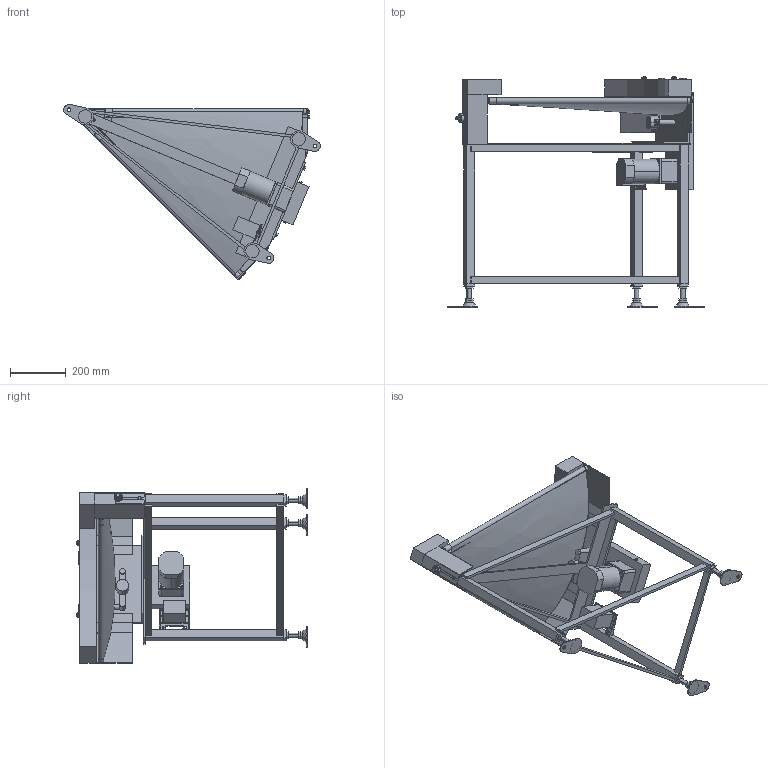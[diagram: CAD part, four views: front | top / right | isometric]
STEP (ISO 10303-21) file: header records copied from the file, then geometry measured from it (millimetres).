
FILE_DESCRIPTION( (''), '2;1');
FILE_NAME ('MMBC3-UD-309-600-45°-R-K-120.stp','2025-02-17T13:54:56',(''),(''),'spGate 20.6.2 (****-****-****-****)','','');
FILE_SCHEMA (('AUTOMOTIVE_DESIGN'));
Length unit declared in the file: millimetre
Products named in the file (39): NewModel; TEMP_X_T-prt0; TEMP_X_T-prt1; TEMP_X_T-prt2; TEMP_X_T-prt3; TEMP_X_T-prt4; TEMP_X_T-prt5; TEMP_X_T-prt6; TEMP_X_T-prt7; TEMP_X_T-prt8; TEMP_X_T-prt9; TEMP_X_T-prt10; TEMP_X_T-prt11; TEMP_X_T-prt12; TEMP_X_T-prt13; TEMP_X_T-prt14; TEMP_X_T-prt15; TEMP_X_T-prt16; TEMP_X_T-prt17; TEMP_X_T-prt18; TEMP_X_T-prt19; TEMP_X_T-prt20; TEMP_X_T-prt21; TEMP_X_T-prt22; TEMP_X_T-prt23; TEMP_X_T-prt24; TEMP_X_T-prt25; TEMP_X_T-prt26; TEMP_X_T-prt27; TEMP_X_T-prt28; TEMP_X_T-prt29; TEMP_X_T-prt30; TEMP_X_T-prt31; TEMP_X_T-prt32; TEMP_X_T-prt33; TEMP_X_T-prt34; TEMP_X_T-prt35; TEMP_X_T-prt36; TEMP_X_T-prt37
Assembly tree (38 placements, depth 2):
  NewModel
    TEMP_X_T-prt0
    TEMP_X_T-prt1
    TEMP_X_T-prt2
    TEMP_X_T-prt3
    TEMP_X_T-prt4
    TEMP_X_T-prt5
    TEMP_X_T-prt6
    TEMP_X_T-prt7
    TEMP_X_T-prt8
    TEMP_X_T-prt9
    TEMP_X_T-prt10
    TEMP_X_T-prt11
    TEMP_X_T-prt12
    TEMP_X_T-prt13
    TEMP_X_T-prt14
    TEMP_X_T-prt15
    TEMP_X_T-prt16
    TEMP_X_T-prt17
    TEMP_X_T-prt18
    TEMP_X_T-prt19
    TEMP_X_T-prt20
    TEMP_X_T-prt21
    TEMP_X_T-prt22
    TEMP_X_T-prt23
    TEMP_X_T-prt24
    TEMP_X_T-prt25
    TEMP_X_T-prt26
    TEMP_X_T-prt27
    TEMP_X_T-prt28
    TEMP_X_T-prt29
    TEMP_X_T-prt30
    TEMP_X_T-prt31
    TEMP_X_T-prt32
    TEMP_X_T-prt33
    TEMP_X_T-prt34
    TEMP_X_T-prt35
    TEMP_X_T-prt36
    TEMP_X_T-prt37
Bounding box: 921.74 x 827.52 x 629.18 mm (x, y, z)
Volume: 13405718.2 mm3; surface area: 3262340 mm2
Topology: 38 solids, 38 shells, 1073 faces, 2554 edges, 1650 vertices
Faces by surface type: plane 726, cylinder 267, bspline 76, sphere 4
Entity records: 56663 total; most frequent: CARTESIAN_POINT 10035, ORIENTED_EDGE 5100, DIRECTION 5027, COLOUR_RGB 3661, PRESENTATION_STYLE_ASSIGNMENT 3661, STYLED_ITEM 3661, EDGE_CURVE 2550, DRAUGHTING_PRE_DEFINED_CURVE_FONT 2550
